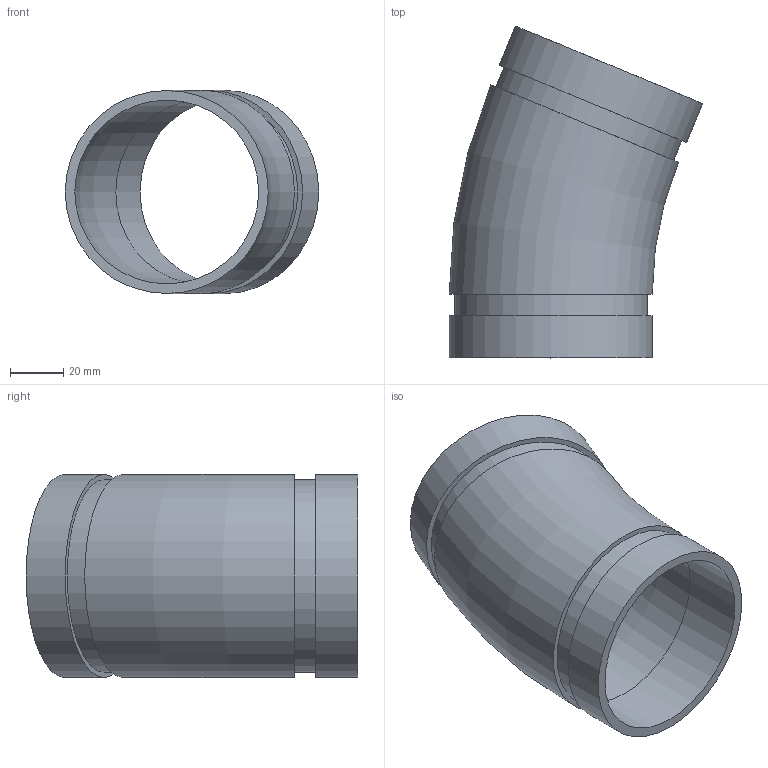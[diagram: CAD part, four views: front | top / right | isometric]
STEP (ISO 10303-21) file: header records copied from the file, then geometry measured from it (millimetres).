
FILE_DESCRIPTION(/* description */ ('VIC ELBOW 22 1/2 DEG No 12 (OGS)','CAx-IF Rec.Pracs.---Representation and Presentation of Product Manufacturing Information (PMI)---4.0---2014-10-13'),/* implementation_level */ '2;1');
FILE_NAME(/* name */ 'C:\Users\Vjadhav\Desktop\CAD for Inventor\1\12\STEP\Victaulic_IPS_Elbow 22.5 Deg_No 12 (OGS)\Victaulic_IPS_Elbow 22.5 Deg_No 12 (OGS)_02.5 (76.1) (65).stp',/* time_stamp */ '2021-12-22T09:20:05+06:00',/* author */ ('CONSTRUCTION PIPING SERVICES'),/* organization */ ('Victaulic'),/* preprocessor_version */ 'ST-DEVELOPER v17.2',/* originating_system */ 'Autodesk Inventor 2019',/* authorisation */ '');
FILE_SCHEMA (('AP242_MANAGED_MODEL_BASED_3D_ENGINEERING_MIM_LF { 1 0 10303 442 1 1 4 }'));
Length unit declared in the file: inch
Products named in the file (1): 012-02.5 (76.1)
Bounding box: 95.17 x 124.53 x 76.2 mm (x, y, z)
Volume: 85845.8 mm3; surface area: 55029.1 mm2
Topology: 1 solids, 1 shells, 14 faces, 32 edges, 24 vertices
Faces by surface type: plane 6, cylinder 6, torus 2
Full cylindrical faces by diameter (mm): 69 x2, 72.263 x2, 76.2 x2
Entity records: 576 total; most frequent: DIRECTION 114, CARTESIAN_POINT 88, ORIENTED_EDGE 64, AXIS2_PLACEMENT_3D 54, EDGE_CURVE 32, CIRCLE 26, VERTEX_POINT 24, EDGE_LOOP 20
